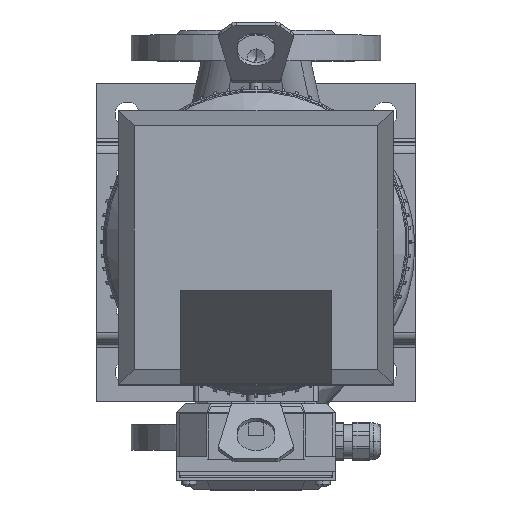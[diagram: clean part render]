
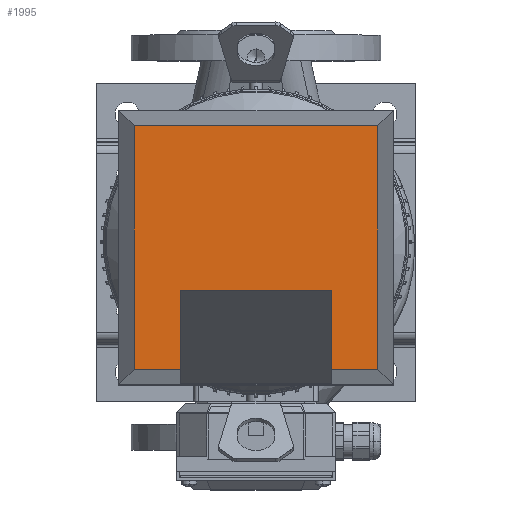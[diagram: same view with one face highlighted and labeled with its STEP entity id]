
A CAD part, top view. The second image highlights one B-rep face of the part: STEP entity #1995.
In plain terms, the highlighted planar face has unit normal (0, 0, 1) as drawn and (0, 1, 0) by its records, which use the part's own axes.
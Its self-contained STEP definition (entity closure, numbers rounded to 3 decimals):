
#1995=ADVANCED_FACE('',(#3618),#3619,.T.);
#2005=EDGE_CURVE('',#3631,#3634,#3635,.T.);
#3618=FACE_OUTER_BOUND('',#9493,.T.);
#3619=PLANE('',#9494);
#3631=VERTEX_POINT('',#9507);
#3634=VERTEX_POINT('',#9512);
#3635=LINE('',#9513,#9514);
#9493=EDGE_LOOP('',(#16448,#16449,#16450,#16451,#16452,#16453,#16454,#16455));
#9494=AXIS2_PLACEMENT_3D('',#16456,#16457,#16458);
#9507=CARTESIAN_POINT('',(50.0,114.0,118.64));
#9512=CARTESIAN_POINT('',(50.0,114.0,171.0));
#9513=CARTESIAN_POINT('',(50.0,114.0,90.179));
#9514=VECTOR('',#16484,1.0);
#16448=ORIENTED_EDGE('',*,*,#2005,.T.);
#16449=ORIENTED_EDGE('',*,*,#25805,.F.);
#16450=ORIENTED_EDGE('',*,*,#25813,.F.);
#16451=ORIENTED_EDGE('',*,*,#25815,.F.);
#16452=ORIENTED_EDGE('',*,*,#25807,.F.);
#16453=ORIENTED_EDGE('',*,*,#25801,.F.);
#16454=ORIENTED_EDGE('',*,*,#25794,.T.);
#16455=ORIENTED_EDGE('',*,*,#25797,.T.);
#16456=CARTESIAN_POINT('',(0.0,114.0,0.0));
#16457=DIRECTION('',(0.0,1.0,-0.0));
#16458=DIRECTION('',(-1.0,0.0,0.0));
#16484=DIRECTION('',(0.0,0.0,1.0));
#25794=EDGE_CURVE('',#43068,#43070,#43072,.T.);
#25797=EDGE_CURVE('',#43070,#3631,#43075,.T.);
#25801=EDGE_CURVE('',#43068,#43079,#43080,.T.);
#25805=EDGE_CURVE('',#43085,#3634,#43087,.T.);
#25807=EDGE_CURVE('',#43079,#43089,#43090,.T.);
#25813=EDGE_CURVE('',#43095,#43085,#43097,.T.);
#25815=EDGE_CURVE('',#43089,#43095,#43099,.T.);
#43068=VERTEX_POINT('',#50855);
#43070=VERTEX_POINT('',#50858);
#43072=LINE('',#50861,#50862);
#43075=LINE('',#50866,#50867);
#43079=VERTEX_POINT('',#50872);
#43080=LINE('',#50873,#50874);
#43085=VERTEX_POINT('',#50881);
#43087=LINE('',#50884,#50885);
#43089=VERTEX_POINT('',#50887);
#43090=LINE('',#50888,#50889);
#43095=VERTEX_POINT('',#50897);
#43097=LINE('',#50900,#50901);
#43099=LINE('',#50903,#50904);
#50855=CARTESIAN_POINT('',(-50.0,114.0,171.0));
#50858=CARTESIAN_POINT('',(-50.0,114.0,118.64));
#50861=CARTESIAN_POINT('',(-50.0,114.0,90.179));
#50862=VECTOR('',#60230,1.0);
#50866=CARTESIAN_POINT('',(25.0,114.0,118.64));
#50867=VECTOR('',#60232,1.0);
#50872=CARTESIAN_POINT('',(-80.5,114.0,171.0));
#50873=CARTESIAN_POINT('',(45.25,114.0,171.0));
#50874=VECTOR('',#60234,1.0);
#50881=CARTESIAN_POINT('',(80.5,114.0,171.0));
#50884=CARTESIAN_POINT('',(45.25,114.0,171.0));
#50885=VECTOR('',#60238,1.0);
#50887=CARTESIAN_POINT('',(-80.5,114.0,10.0));
#50888=CARTESIAN_POINT('',(-80.5,114.0,0.0));
#50889=VECTOR('',#60239,1.0);
#50897=CARTESIAN_POINT('',(80.5,114.0,10.0));
#50900=CARTESIAN_POINT('',(80.5,114.0,0.0));
#50901=VECTOR('',#60244,1.0);
#50903=CARTESIAN_POINT('',(45.25,114.0,10.0));
#50904=VECTOR('',#60245,1.0);
#60230=DIRECTION('',(-0.0,0.0,-1.0));
#60232=DIRECTION('',(1.0,-0.0,0.0));
#60234=DIRECTION('',(-1.0,0.0,-0.0));
#60238=DIRECTION('',(-1.0,0.0,-0.0));
#60239=DIRECTION('',(-0.0,-0.0,-1.0));
#60244=DIRECTION('',(-0.0,0.0,1.0));
#60245=DIRECTION('',(1.0,-0.0,-0.0));
